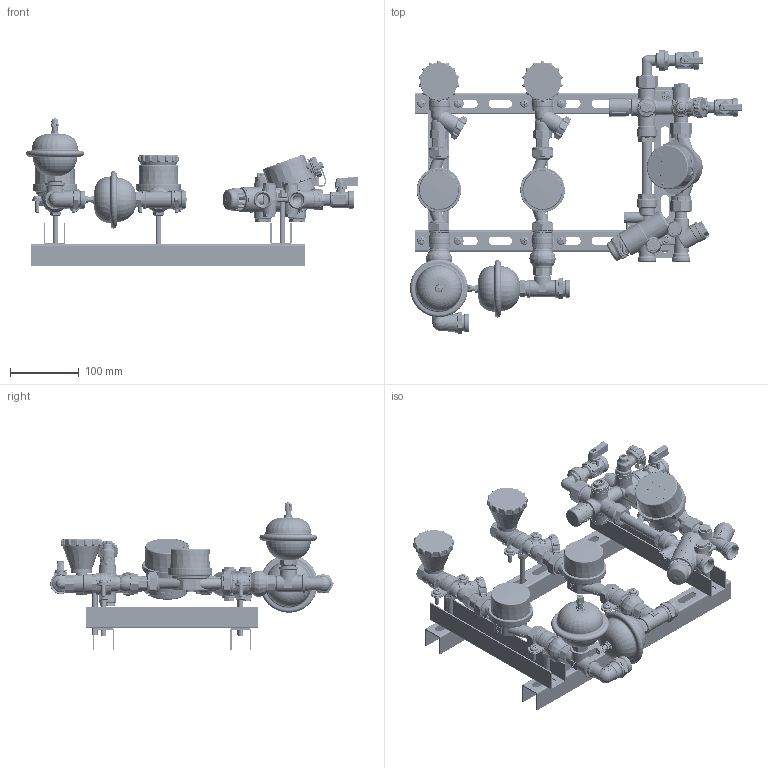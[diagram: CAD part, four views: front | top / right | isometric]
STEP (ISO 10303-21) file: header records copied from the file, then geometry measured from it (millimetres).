
FILE_DESCRIPTION(('STEP AP242'), '1');
FILE_NAME('覆.494726.033.000 捘 - VT.LB.H0.MW', '', ('UNSPECIFIED'), ('UNSPECIFIED'), 'C3D Converter', 'C3D Toolkit', '');
FILE_SCHEMA(('AP242_MANAGED_MODEL_BASED_3D_ENGINEERING_MIM_LF { 1 0 10303 442 1 1 4 }'));
Length unit declared in the file: millimetre
Products named in the file (246): ВР.494726.033.000 СБ; ВР.494726.013.000 СБ; ВР.494726.013.001 СБ; ВР.494726.012.001 СБ; ВР.494726.002.001.002 СБ; ВР.731371.001; ВР.725140.002; ВР.753125.023; ВР.758421.046; ВР.753612.008; ВР.305319.007.000 СБ; ВР.753125.011; ВР.305319.008.000 СБ; ВР.753125.012; ВР.494726.012.001.001 СБ; ВР.731378.002; ВР.731378.002П; ВР.305319.003.000 СБ; ВР.752513.005; ВР.493619.002.000 СБ; ВР.753191.001; ВР.713161.001; ВР.712221.001; ВР.493619.002.001 СБ; ВР.753157.001; ВР.493619.002.002 СБ; ВР.716623.001; ВР.753512.018; ВР.494726.002.005 СБ; ВР.713791.001; ВР.407223.001.000 СБ; ВР.407223.001.002 СБ; ВР.731464.002; ВР.753182.016; ВР.714411.001; ВР.715113.003; ВР.407223.001.002.002 СБ; ВР.753192.014; ВР.715113.002; ВР.711141.021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
Assembly tree (303 placements, depth 9):
  ВР.494726.033.000 СБ
    ВР.494726.013.000 СБ
      ВР.494726.013.001 СБ
        ВР.494726.012.001 СБ
          ВР.494726.002.001.002 СБ
            ВР.731371.001
            ВР.725140.002
            (unnamed)
              ВР.753125.023
              (unnamed)
            ВР.758421.046
            ВР.753612.008
            ВР.305319.007.000 СБ
              ВР.753125.011
              (unnamed)
            ВР.305319.008.000 СБ  x2
              ВР.753125.012
              (unnamed)
          ВР.494726.012.001.001 СБ
            ВР.731378.002
              ВР.731378.002П
            ВР.758421.046
            ВР.753612.008
            ВР.305319.003.000 СБ
              ВР.752513.005
              (unnamed)
            ВР.493619.002.000 СБ
              ВР.753191.001
              ВР.713161.001
              ВР.712221.001
              (unnamed)
              ВР.493619.002.001 СБ
                ВР.753157.001
                (unnamed)
                (unnamed)
                (unnamed)
              ВР.493619.002.002 СБ
                ВР.716623.001
                (unnamed)
              ВР.753512.018
            ВР.494726.002.005 СБ  x2
              ВР.713791.001
              (unnamed)
          ВР.407223.001.000 СБ
            ВР.407223.001.002 СБ
              ВР.731464.002
              ВР.753182.016
              ВР.714411.001
                ВР.715113.003
              ВР.407223.001.002.002 СБ
                ВР.753192.014
                  ВР.715113.002
                ВР.711141.021
                ВР.713121.002
              ВР.711141.022
              ВР.407223.001.002.001 СБ
                ВР.753181.009
                ВР.713141.002
              (unnamed)
              ВР.711141.023
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Bounding box: 483.82 x 413.09 x 215.03 mm (x, y, z)
Volume: 1321697 mm3; surface area: 1177291.9 mm2
Topology: 356 solids, 359 shells, 27741 faces, 74879 edges, 49238 vertices
Faces by surface type: plane 10971, extrusion 7198, cylinder 5794, cone 1707, bspline 1120, torus 855, sphere 96
Full cylindrical faces by diameter (mm): 0.4 x4, 0.6 x23, 0.7 x2, 0.8 x12, 1 x10, 1.1 x308, 1.2 x23, 1.3 x15, 1.5 x53, 1.55 x2, 1.6 x23, 1.66 x4, 1.7 x3, 1.8 x10, 1.9 x5, 2 x35, 2.1 x4, 2.2 x11, 2.3 x3, 2.4 x2, 2.5 x11, 2.6 x1, 2.7 x2, 2.8 x1, 3 x82, 3.2 x2, 3.242 x2, 3.4 x35, 3.5 x10, 3.6 x5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
Entity records: 751556 total; most frequent: CARTESIAN_POINT 356986, ORIENTED_EDGE 81910, DIRECTION 63325, EDGE_CURVE 40960, VERTEX_POINT 27821, VECTOR 22591, AXIS2_PLACEMENT_3D 20367, EDGE_LOOP 19332
